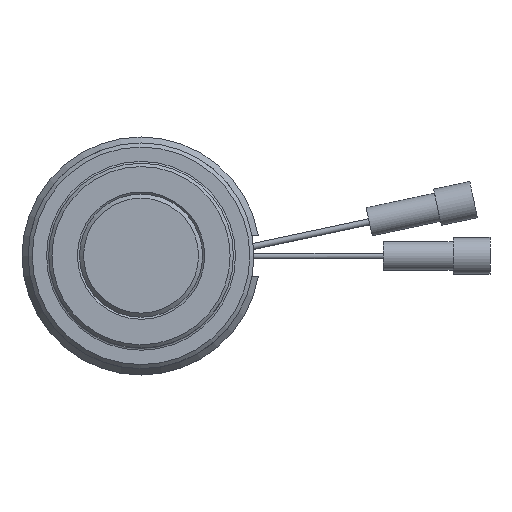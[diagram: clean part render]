
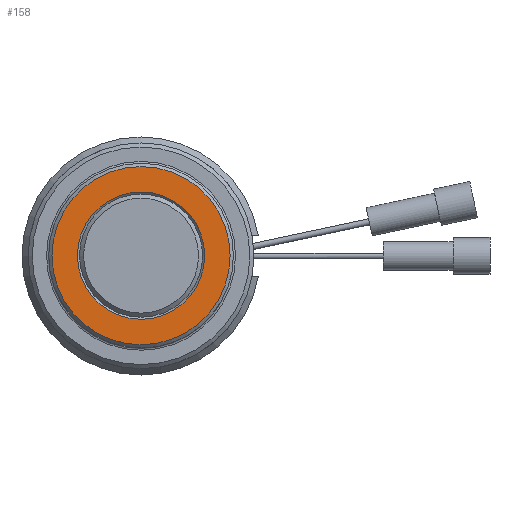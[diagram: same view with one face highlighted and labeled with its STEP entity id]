
A CAD part, top view. The second image highlights one B-rep face of the part: STEP entity #158.
In plain terms, the highlighted planar face has unit normal (0, 0, 1).
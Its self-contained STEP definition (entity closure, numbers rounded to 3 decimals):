
#158=ADVANCED_FACE('',(#439,#440),#441,.T.);
#439=FACE_BOUND('',#918,.T.);
#440=FACE_OUTER_BOUND('',#919,.T.);
#441=PLANE('',#920);
#918=EDGE_LOOP('',(#1393));
#919=EDGE_LOOP('',(#1394));
#920=AXIS2_PLACEMENT_3D('',#1395,#1396,#1397);
#1393=ORIENTED_EDGE('',*,*,#2383,.T.);
#1394=ORIENTED_EDGE('',*,*,#2380,.F.);
#1395=CARTESIAN_POINT('',(-15.5,0.0,50.4));
#1396=DIRECTION('',(0.0,0.,1.0));
#1397=DIRECTION('',(0.0,-1.0,0.));
#2380=EDGE_CURVE('',#2713,#2713,#2714,.T.);
#2383=EDGE_CURVE('',#2718,#2718,#2719,.T.);
#2713=VERTEX_POINT('',#3199);
#2714=CIRCLE('',#3200,21.7);
#2718=VERTEX_POINT('',#3204);
#2719=CIRCLE('',#3205,15.5);
#3199=CARTESIAN_POINT('',(0.0,21.7,50.4));
#3200=AXIS2_PLACEMENT_3D('',#3874,#3875,#3876);
#3204=CARTESIAN_POINT('',(0.0,15.5,50.4));
#3205=AXIS2_PLACEMENT_3D('',#3880,#3881,#3882);
#3874=CARTESIAN_POINT('',(0.0,0.0,50.4));
#3875=DIRECTION('',(-0.0,0.,-1.0));
#3876=DIRECTION('',(0.0,1.0,0.));
#3880=CARTESIAN_POINT('',(0.0,0.0,50.4));
#3881=DIRECTION('',(-0.0,0.,-1.0));
#3882=DIRECTION('',(0.0,1.0,0.));
